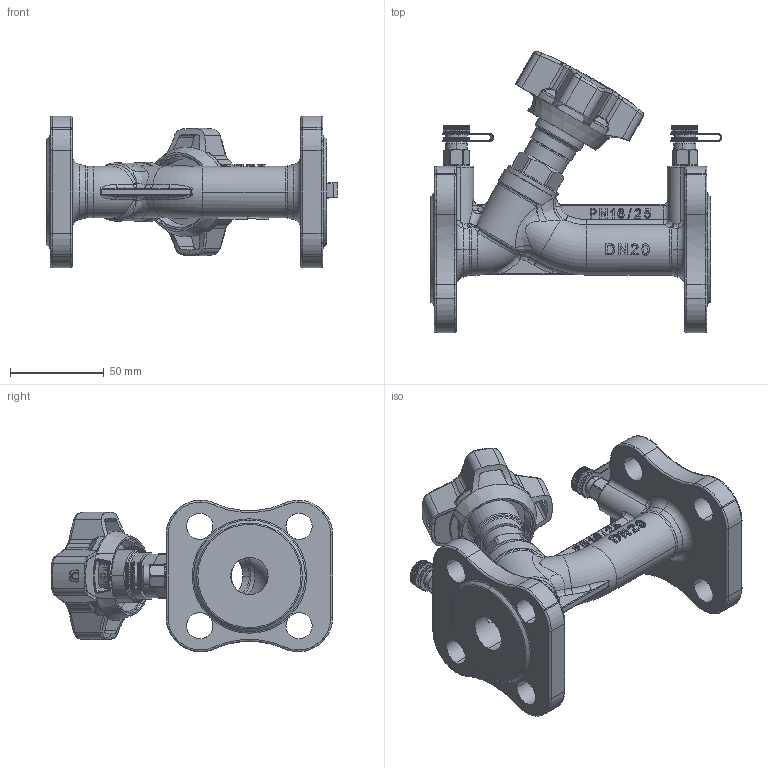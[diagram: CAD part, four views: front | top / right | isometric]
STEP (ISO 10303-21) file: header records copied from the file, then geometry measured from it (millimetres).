
FILE_DESCRIPTION (( 'STEP AP203' ), '1' );
FILE_NAME ('CM0030002000 竣艇佴.STEP', '2024-01-10T06:58:31', ( '' ), ( '' ), 'SwSTEP 2.0', 'SolidWorks 2024', '' );
FILE_SCHEMA (( 'CONFIG_CONTROL_DESIGN' ));
Length unit declared in the file: millimetre
Products named in the file (10): CM0030002000 丹弗斯; 膨胀体; O 型圈; 橡胶扣; 取压咀帽; 20503-20-00-z 丹弗斯; CM003002001 丹弗斯; O 型圈 8x1; 取压咀主体-30; 取压咀
Assembly tree (10 placements, depth 3):
  CM0030002000 丹弗斯
    CM003002001 丹弗斯
    20503-20-00-z 丹弗斯
    取压咀  x2
      取压咀帽
      取压咀主体-30
      膨胀体
      橡胶扣
      O 型圈
      O 型圈 8x1
Bounding box: 155.78 x 150.39 x 81.04 mm (x, y, z)
Volume: 254236.6 mm3; surface area: 110836.2 mm2
Topology: 21 solids, 21 shells, 3743 faces, 10324 edges, 6725 vertices
Faces by surface type: plane 1611, cylinder 768, bspline 693, torus 320, cone 319, sphere 32
Entity records: 131369 total; most frequent: CARTESIAN_POINT 55547, ORIENTED_EDGE 17226, DIRECTION 13365, EDGE_CURVE 8613, VERTEX_POINT 5641, AXIS2_PLACEMENT_3D 4661, LINE 4043, VECTOR 4043
